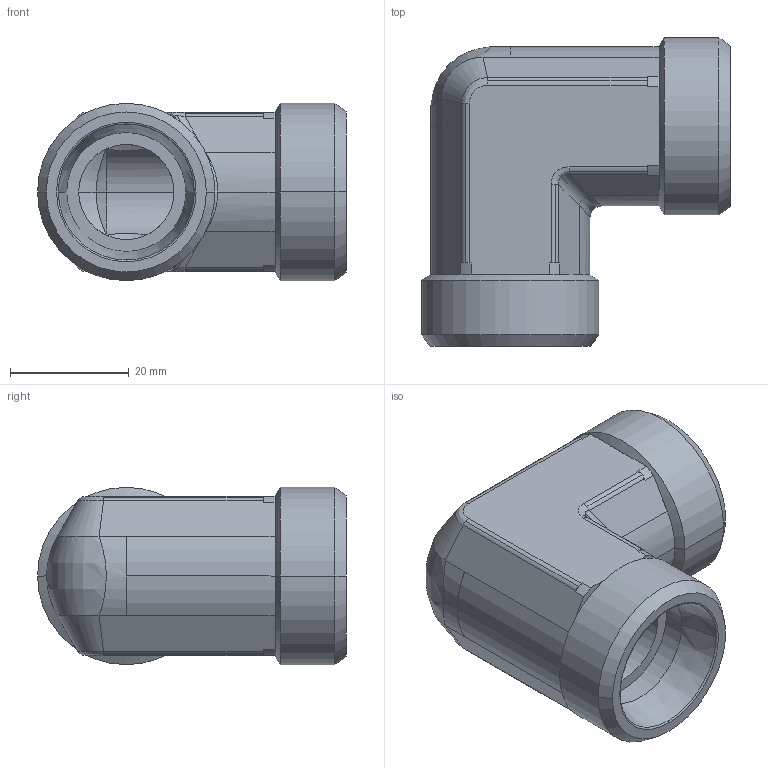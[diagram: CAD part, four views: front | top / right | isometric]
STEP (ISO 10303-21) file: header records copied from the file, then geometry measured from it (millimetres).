
FILE_DESCRIPTION((''),'2;1');
FILE_NAME('103820.stp','2007-10-31T11:51:49',(''),(''),'AutoCAD STEP 2000i','AutoCAD 2000i',', , ');
FILE_SCHEMA(('CONFIG_CONTROL_DESIGN'));
Length unit declared in the file: millimetre
Products named in the file (2): 103820.0; 3090#0
Assembly tree (1 placements, depth 2):
  103820.0
    3090#0
Bounding box: 51.91 x 51.91 x 29.82 mm (x, y, z)
Volume: 28206.1 mm3; surface area: 11454.1 mm2
Topology: 1 solids, 1 shells, 120 faces, 282 edges, 166 vertices
Faces by surface type: cylinder 52, plane 34, cone 20, bspline 14
Entity records: 4408 total; most frequent: CARTESIAN_POINT 1529, DIRECTION 621, ORIENTED_EDGE 564, EDGE_CURVE 282, AXIS2_PLACEMENT_3D 250, VERTEX_POINT 166, CIRCLE 124, EDGE_LOOP 124
